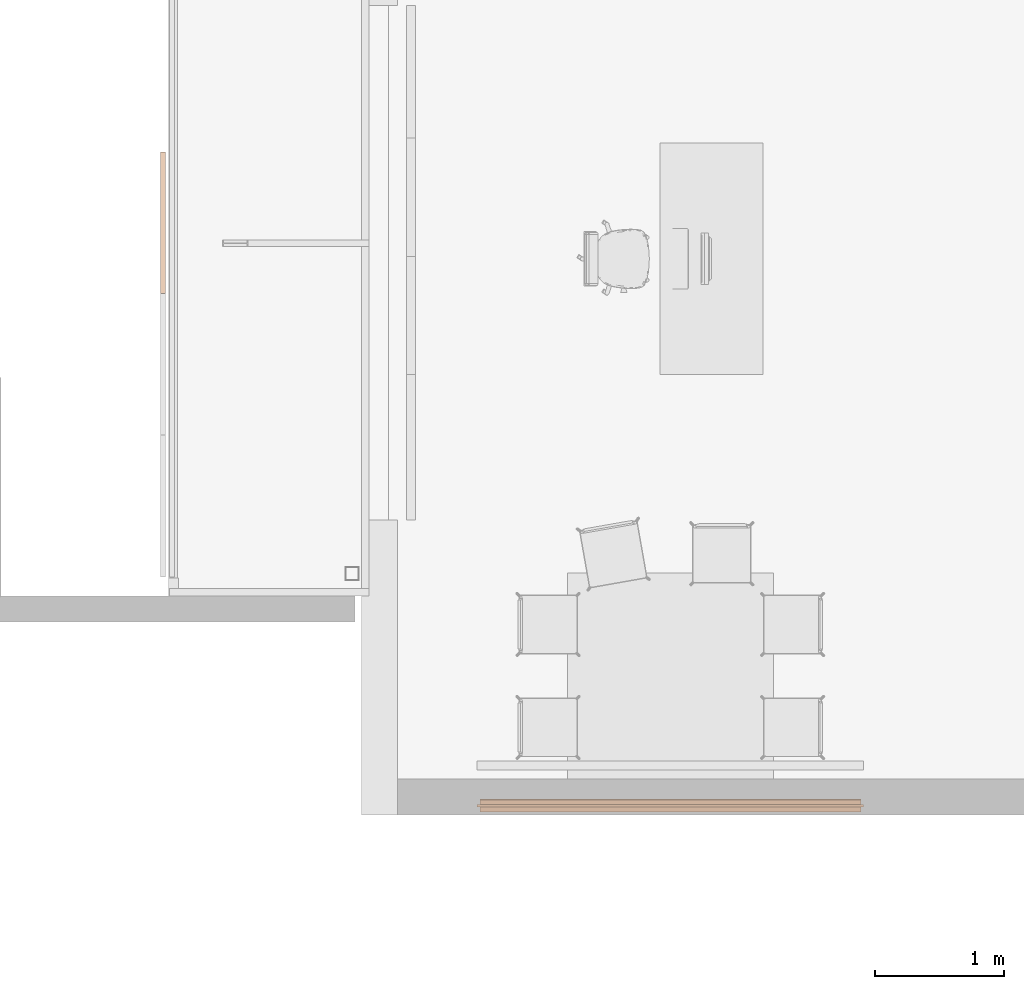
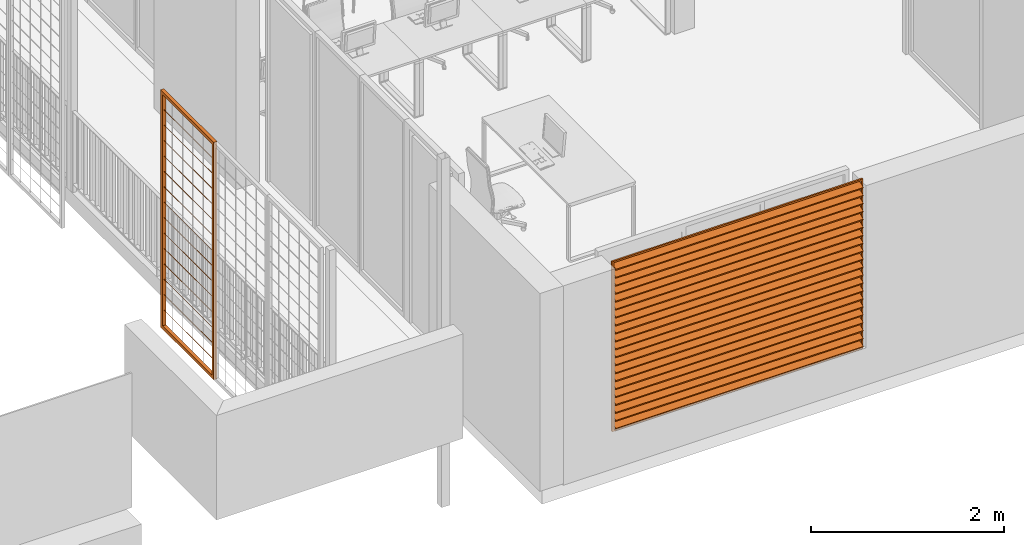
# One storey, part 38 of 51: 2 proxies.
"""IFC2X3 building model written with IfcOpenShell, lengths in metres."""

from ifc_helpers import new_model, entity, si_unit, converted_unit, derived_unit, direction, frame, frame_2d, origin, origin_2d_with_axis, place, context, subcontext, project, spatial, polyline, rectangle, outline, extrude, source, transform, mapped, material, type_object, type_shapes, element, save


model = new_model("IFC2X3")

# Units and contexts
model_context = context("Model", 3, precision=1e-05, world=origin(), true_north=direction((6.123031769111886e-17, 1.0)))
body_context = subcontext(model_context, "Body", "Model", "MODEL_VIEW")
ifc_project = project(units=[si_unit("LENGTHUNIT", "METRE"), si_unit("AREAUNIT", "SQUARE_METRE"), si_unit("VOLUMEUNIT", "CUBIC_METRE"), converted_unit("PLANEANGLEUNIT", "DEGREE", entity("IfcRatioMeasure", 0.017453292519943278), si_unit("PLANEANGLEUNIT", "RADIAN"), dimensions=[0, 0, 0, 0, 0, 0, 0]), si_unit("MASSUNIT", "GRAM", prefix="KILO"), derived_unit("MASSDENSITYUNIT", [(si_unit("MASSUNIT", "GRAM", prefix="KILO"), 1), (si_unit("LENGTHUNIT", "METRE"), -3)]), derived_unit("MOMENTOFINERTIAUNIT", [(si_unit("LENGTHUNIT", "METRE"), 4)]), si_unit("TIMEUNIT", "SECOND"), si_unit("FREQUENCYUNIT", "HERTZ"), si_unit("THERMODYNAMICTEMPERATUREUNIT", "DEGREE_CELSIUS"), derived_unit("THERMALTRANSMITTANCEUNIT", [(si_unit("MASSUNIT", "GRAM", prefix="KILO"), 1), (si_unit("THERMODYNAMICTEMPERATUREUNIT", "KELVIN"), -1), (si_unit("TIMEUNIT", "SECOND"), -3)]), derived_unit("THERMALCONDUCTANCEUNIT", [(si_unit("MASSUNIT", "GRAM", prefix="KILO"), 1), (si_unit("LENGTHUNIT", "METRE"), 1), (si_unit("THERMODYNAMICTEMPERATUREUNIT", "KELVIN"), -1), (si_unit("TIMEUNIT", "SECOND"), -3)]), derived_unit("VOLUMETRICFLOWRATEUNIT", [(si_unit("LENGTHUNIT", "METRE"), 3), (si_unit("TIMEUNIT", "SECOND"), -1)]), derived_unit("MASSFLOWRATEUNIT", [(si_unit("MASSUNIT", "GRAM", prefix="KILO"), 1), (si_unit("TIMEUNIT", "SECOND"), -1)]), derived_unit("ROTATIONALFREQUENCYUNIT", [(si_unit("TIMEUNIT", "SECOND"), -1)]), si_unit("ELECTRICCURRENTUNIT", "AMPERE"), si_unit("ELECTRICVOLTAGEUNIT", "VOLT"), si_unit("POWERUNIT", "WATT"), si_unit("FORCEUNIT", "NEWTON", prefix="KILO"), si_unit("ILLUMINANCEUNIT", "LUX"), si_unit("LUMINOUSFLUXUNIT", "LUMEN"), si_unit("LUMINOUSINTENSITYUNIT", "CANDELA"), derived_unit("USERDEFINED", [(si_unit("MASSUNIT", "GRAM", prefix="KILO"), -1), (si_unit("LENGTHUNIT", "METRE"), -2), (si_unit("TIMEUNIT", "SECOND"), 3), (si_unit("LUMINOUSFLUXUNIT", "LUMEN"), 1)]), derived_unit("USERDEFINED", [(si_unit("MASSUNIT", "GRAM", prefix="KILO"), 1), (si_unit("LENGTHUNIT", "METRE"), 3), (si_unit("TIMEUNIT", "SECOND"), -3), (si_unit("ELECTRICCURRENTUNIT", "AMPERE"), -2)]), derived_unit("USERDEFINED", [(si_unit("LENGTHUNIT", "METRE"), 2), (si_unit("TIMEUNIT", "SECOND"), -2)]), derived_unit("SOUNDPOWERUNIT", [(si_unit("MASSUNIT", "GRAM", prefix="KILO"), 1), (si_unit("LENGTHUNIT", "METRE"), 2), (si_unit("TIMEUNIT", "SECOND"), -3)]), derived_unit("SOUNDPRESSUREUNIT", [(si_unit("MASSUNIT", "GRAM", prefix="KILO"), 1), (si_unit("LENGTHUNIT", "METRE"), -1), (si_unit("TIMEUNIT", "SECOND"), -2)]), derived_unit("LINEARVELOCITYUNIT", [(si_unit("LENGTHUNIT", "METRE"), 1), (si_unit("TIMEUNIT", "SECOND"), -1)]), si_unit("PRESSUREUNIT", "PASCAL"), derived_unit("USERDEFINED", [(si_unit("LENGTHUNIT", "METRE"), -2), (si_unit("MASSUNIT", "GRAM", prefix="KILO"), 1), (si_unit("TIMEUNIT", "SECOND"), -2)]), derived_unit("LINEARFORCEUNIT", [(si_unit("MASSUNIT", "GRAM", prefix="KILO"), 1), (si_unit("LENGTHUNIT", "METRE"), 1), (si_unit("TIMEUNIT", "SECOND"), -2), (si_unit("LENGTHUNIT", "METRE"), -1)]), derived_unit("PLANARFORCEUNIT", [(si_unit("MASSUNIT", "GRAM", prefix="KILO"), 1), (si_unit("LENGTHUNIT", "METRE"), 1), (si_unit("TIMEUNIT", "SECOND"), -2), (si_unit("LENGTHUNIT", "METRE"), -2)]), derived_unit("SPECIFICHEATCAPACITYUNIT", [(si_unit("LENGTHUNIT", "METRE"), 2), (si_unit("TIMEUNIT", "SECOND"), -2), (si_unit("THERMODYNAMICTEMPERATUREUNIT", "KELVIN"), -1)]), derived_unit("VAPORPERMEABILITYUNIT", [(si_unit("TIMEUNIT", "SECOND"), 1), (si_unit("LENGTHUNIT", "METRE"), -1)]), derived_unit("DYNAMICVISCOSITYUNIT", [(si_unit("MASSUNIT", "GRAM", prefix="KILO"), 1), (si_unit("LENGTHUNIT", "METRE"), -1), (si_unit("TIMEUNIT", "SECOND"), -1)]), derived_unit("THERMALEXPANSIONCOEFFICIENTUNIT", [(si_unit("THERMODYNAMICTEMPERATUREUNIT", "KELVIN"), -1)])], contexts=[model_context])

# Site, building, storey
site_placement = place(None, origin())
site = spatial("IfcSite", under=ifc_project, at=site_placement, Name="Default", CompositionType="ELEMENT")
building_placement = place(site_placement, origin())
building = spatial("IfcBuilding", under=site, at=building_placement, CompositionType="ELEMENT")
storey_placement = place(building_placement, frame((0.0, 0.0, 3.06)))
storey = spatial("IfcBuildingStorey", under=building, at=storey_placement, Name="ÉTAGE", CompositionType="ELEMENT", Elevation=3.06)

# Proxies
ifc_material_1 = material(Name="Peinture - Anthracite")
building_element_proxy_type_1 = type_object("IfcBuildingElementProxyType", Name="Symb-0003", PredefinedType="NOTDEFINED", material=ifc_material_1)
shared_shape_1 = source(origin(), body_context, "Body", "SweptSolid", [
    extrude(rectangle(XDim=0.020000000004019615, YDim=0.10047619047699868, at=frame_2d((-8.546531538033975e-13, -2.3497358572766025e-12), x_axis=(0.0, 1.0))), frame((142.32075228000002, 7.659209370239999, 6.749761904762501), z_axis=(1.0, 0.0, 0.0), x_axis=(0.0, 0.9396926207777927, 0.3420201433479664)), (0.0, 0.0, 1.0), 2.959999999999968),
    extrude(rectangle(XDim=0.020000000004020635, YDim=0.10047619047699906, at=frame_2d((5.065392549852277e-16, -1.8648277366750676e-16), x_axis=(0.0, 1.0))), frame((142.32075228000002, 7.659209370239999, 6.649285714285), z_axis=(1.0, 0.0, 0.0), x_axis=(0.0, 0.9396926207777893, 0.3420201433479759)), (0.0, 0.0, 1.0), 2.959999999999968),
    extrude(rectangle(XDim=0.019999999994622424, YDim=0.10047619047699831, at=frame_2d((5.065392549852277e-16, -1.8648277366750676e-16), x_axis=(0.0, 1.0))), frame((142.32075228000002, 7.659209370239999, 6.54880952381), z_axis=(1.0, 0.0, 0.0), x_axis=(0.0, 0.9396926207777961, 0.3420201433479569)), (0.0, 0.0, 1.0), 2.959999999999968),
    extrude(rectangle(XDim=0.020000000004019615, YDim=0.10047619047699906, at=frame_2d((-8.546566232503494e-13, -2.3497375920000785e-12), x_axis=(0.0, 1.0))), frame((142.32075228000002, 7.659209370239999, 6.4483333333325), z_axis=(1.0, 0.0, 0.0), x_axis=(0.0, 0.9396926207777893, 0.3420201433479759)), (0.0, 0.0, 1.0), 2.959999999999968),
    extrude(rectangle(XDim=0.01999999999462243, YDim=0.100476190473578, at=frame_2d((8.556766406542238e-13, 2.3493654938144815e-12), x_axis=(0.0, 1.0))), frame((142.32075228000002, 7.659209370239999, 6.3478571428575), z_axis=(1.0, 0.0, 0.0), x_axis=(0.0, 0.9396926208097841, 0.34202014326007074)), (0.0, 0.0, 1.0), 2.959999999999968),
    extrude(rectangle(XDim=0.020000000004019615, YDim=0.1004761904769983, at=frame_2d((-8.546566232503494e-13, -2.3497375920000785e-12), x_axis=(0.0, 1.0))), frame((142.32075228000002, 7.659209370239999, 6.247380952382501), z_axis=(1.0, 0.0, 0.0), x_axis=(0.0, 0.9396926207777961, 0.3420201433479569)), (0.0, 0.0, 1.0), 2.959999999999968),
    extrude(rectangle(XDim=0.02000000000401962, YDim=0.10047619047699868, at=frame_2d((5.134781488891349e-16, -1.8474805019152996e-16), x_axis=(0.0, 1.0))), frame((142.32075228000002, 7.659209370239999, 6.146904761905), z_axis=(1.0, 0.0, 0.0), x_axis=(0.0, 0.9396926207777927, 0.3420201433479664)), (0.0, 0.0, 1.0), 2.959999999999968),
    extrude(rectangle(XDim=0.01999999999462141, YDim=0.10047619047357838, at=frame_2d((8.556766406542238e-13, 2.3493663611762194e-12), x_axis=(0.0, 1.0))), frame((142.32075228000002, 7.659209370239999, 6.046428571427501), z_axis=(1.0, 0.0, 0.0), x_axis=(0.0, 0.9396926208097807, 0.34202014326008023)), (0.0, 0.0, 1.0), 2.959999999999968),
    extrude(rectangle(XDim=0.020000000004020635, YDim=0.1004761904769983, at=frame_2d((-8.542923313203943e-13, -2.34871930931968e-12), x_axis=(0.0, 1.0))), frame((142.32075228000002, 7.659209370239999, 5.9459523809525), z_axis=(1.0, 0.0, 0.0), x_axis=(0.0, 0.9396926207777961, 0.3420201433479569)), (0.0, 0.0, 1.0), 2.959999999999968),
    extrude(rectangle(XDim=0.020000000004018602, YDim=0.10047619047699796, at=frame_2d((6.869504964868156e-16, 3.226585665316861e-16), x_axis=(0.0, 1.0))), frame((142.32075228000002, 7.659209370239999, 5.845476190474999), z_axis=(1.0, 0.0, 0.0), x_axis=(0.0, 0.9396926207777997, 0.3420201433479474)), (0.0, 0.0, 1.0), 2.959999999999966),
    extrude(rectangle(XDim=0.019999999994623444, YDim=0.10047619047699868, at=frame_2d((3.2612801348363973e-16, -6.930220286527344e-16), x_axis=(0.0, 1.0))), frame((142.32075228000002, 7.659209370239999, 5.745000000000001), z_axis=(1.0, 0.0, 0.0), x_axis=(0.0, 0.9396926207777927, 0.3420201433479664)), (0.0, 0.0, 1.0), 2.959999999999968),
    extrude(rectangle(XDim=0.02000000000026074, YDim=0.10047619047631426, at=frame_2d((3.4253849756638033e-13, 9.395314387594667e-13), x_axis=(0.0, 1.0))), frame((142.32075228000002, 7.659209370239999, 5.644523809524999), z_axis=(1.0, 0.0, 0.0), x_axis=(0.0, 0.9396926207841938, 0.34202014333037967)), (0.0, 0.0, 1.0), 2.959999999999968),
    extrude(rectangle(XDim=0.02000000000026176, YDim=0.10047619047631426, at=frame_2d((-8.504308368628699e-14, -2.3524151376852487e-13), x_axis=(0.0, 1.0))), frame((142.32075228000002, 7.659209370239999, 5.54404761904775), z_axis=(1.0, 0.0, 0.0), x_axis=(0.0, 0.9396926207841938, 0.34202014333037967)), (0.0, 0.0, 1.0), 2.959999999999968),
    extrude(rectangle(XDim=0.020000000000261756, YDim=0.10047619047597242, at=frame_2d((1.457167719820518e-16, -1.2021633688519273e-15), x_axis=(0.0, 1.0))), frame((142.32075228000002, 7.659209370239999, 5.443571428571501), z_axis=(1.0, 0.0, 0.0), x_axis=(0.0, 0.9396926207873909, 0.3420201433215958)), (0.0, 0.0, 1.0), 2.959999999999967),
    extrude(rectangle(XDim=0.019999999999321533, YDim=0.1004761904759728, at=frame_2d((8.60596316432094e-14, 2.348711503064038e-13), x_axis=(0.0, 1.0))), frame((142.32075228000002, 7.659209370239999, 5.343095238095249), z_axis=(1.0, 0.0, 0.0), x_axis=(0.0, 0.9396926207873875, 0.34202014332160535)), (0.0, 0.0, 1.0), 2.959999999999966),
    extrude(rectangle(XDim=0.020000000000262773, YDim=0.10047619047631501, at=frame_2d((3.226585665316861e-16, -6.92154666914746e-16), x_axis=(0.0, 1.0))), frame((142.32075228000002, 7.659209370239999, 5.242619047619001), z_axis=(1.0, 0.0, 0.0), x_axis=(0.0, 0.9396926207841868, 0.3420201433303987)), (0.0, 0.0, 1.0), 2.959999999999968),
    extrude(rectangle(XDim=0.02000000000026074, YDim=0.10047619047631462, at=frame_2d((-8.504308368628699e-14, -2.3524151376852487e-13), x_axis=(0.0, 1.0))), frame((142.32075228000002, 7.659209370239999, 5.142142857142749), z_axis=(1.0, 0.0, 0.0), x_axis=(0.0, 0.9396926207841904, 0.34202014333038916)), (0.0, 0.0, 1.0), 2.959999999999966),
    extrude(rectangle(XDim=0.02000000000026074, YDim=0.10047619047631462, at=frame_2d((-8.504308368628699e-14, -2.3524151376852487e-13), x_axis=(0.0, 1.0))), frame((142.32075228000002, 7.659209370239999, 5.04166666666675), z_axis=(1.0, 0.0, 0.0), x_axis=(0.0, 0.9396926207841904, 0.34202014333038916)), (0.0, 0.0, 1.0), 2.959999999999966),
    extrude(rectangle(XDim=0.02000000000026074, YDim=0.10047619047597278, at=frame_2d((5.065392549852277e-16, -1.8561541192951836e-16), x_axis=(0.0, 1.0))), frame((142.32075228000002, 7.659209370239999, 4.9411904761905), z_axis=(1.0, 0.0, 0.0), x_axis=(0.0, 0.9396926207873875, 0.34202014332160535)), (0.0, 0.0, 1.0), 2.959999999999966),
    extrude(rectangle(XDim=0.019999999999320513, YDim=0.10047619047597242, at=frame_2d((8.606657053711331e-14, 2.348737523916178e-13), x_axis=(0.0, 1.0))), frame((142.32075228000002, 7.659209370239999, 4.84071428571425), z_axis=(1.0, 0.0, 0.0), x_axis=(0.0, 0.9396926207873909, 0.3420201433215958)), (0.0, 0.0, 1.0), 2.959999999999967),
    extrude(rectangle(XDim=0.019999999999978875, YDim=0.10047619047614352, at=frame_2d((5.065392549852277e-16, -1.8474805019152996e-16), x_axis=(0.0, 1.0))), frame((142.32075228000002, 7.659209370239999, 4.7402380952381), z_axis=(1.0, 0.0, 0.0), x_axis=(0.0, 0.9396926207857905, 0.3420201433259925)), (0.0, 0.0, 1.0), 2.959999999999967),
    extrude(outline(polyline([(-1.0750000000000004, -1.5000000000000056), (1.0750000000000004, -1.5000000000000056), (1.0750000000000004, 1.4999999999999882), (-1.0750000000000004, 1.4999999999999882), (-1.0750000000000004, -1.5000000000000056)]), holes=[polyline([(-1.0550000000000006, 1.4799999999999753), (1.055, 1.4799999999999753), (1.055, -1.4799999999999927), (-1.0550000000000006, -1.4799999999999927), (-1.0550000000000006, 1.4799999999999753)])]), frame((143.80075227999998, 7.6492093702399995, 5.745), z_axis=(0.0, 1.0, 0.0), x_axis=(0.0, 0.0, -1.0)), (0.0, 0.0, 1.0), 0.019999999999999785),
])
type_shapes(building_element_proxy_type_1, [shared_shape_1])
proxy_1_placement = place(storey_placement, frame((0.0, 0.0, -3.06)))
element("IfcBuildingElementProxy", 1, at=proxy_1_placement, inside=storey, type_object=building_element_proxy_type_1, material=ifc_material_1, Name="Symb-0003 285634:Symb-0003 285634", ObjectType="Symb-0003 285634:Symb-0003 285634", context=body_context, shape_type="MappedRepresentation", body=[
    mapped(shared_shape_1, transform((0.0, 0.0, 0.0), scale=1.0)),
])
ifc_material_2 = material(Name="Peinture - Gris foncé")
building_element_proxy_type_2 = type_object("IfcBuildingElementProxyType", Name="Symb-0003", PredefinedType="NOTDEFINED", material=ifc_material_2)
shared_shape_2 = source(origin(), body_context, "Body", "SweptSolid", [
    extrude(outline(polyline([(-0.0011785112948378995, -0.002357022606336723), (0.0, -0.0023570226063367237), (0.001767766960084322, -0.0017677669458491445), (0.002357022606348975, 0.0), (0.0023570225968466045, 0.0011785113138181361), (0.0011785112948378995, 0.002357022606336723), (0.0, 0.002357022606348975), (-0.001767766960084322, 0.0017677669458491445), (-0.0023570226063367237, 0.0), (-0.0023570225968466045, -0.0011785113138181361), (-0.0011785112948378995, -0.002357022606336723)])), frame((139.86075228, 11.677209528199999, 6.7275), z_axis=(0.0, 1.0, 0.0), x_axis=(-0.7071067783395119, 0.0, -0.7071067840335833)), (0.0, 0.0, 1.0), 1.0200000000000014),
    extrude(outline(polyline([(-0.0011785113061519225, -0.0023570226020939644), (0.0, -0.002357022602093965), (0.0017677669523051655, -0.001767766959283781), (0.0023570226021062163, 0.0), (0.002357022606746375, 0.0011785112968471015), (0.0011785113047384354, 0.0023570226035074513), (0.0, 0.0023570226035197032), (-0.0017677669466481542, 0.0017677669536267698), (-0.002357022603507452, 0.0), (-0.0023570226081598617, -0.0011785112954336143), (-0.0011785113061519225, -0.0023570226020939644)])), frame((139.86075228, 11.677209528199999, 6.532833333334), z_axis=(0.0, 1.0, 0.0), x_axis=(-0.7071067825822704, 0.0, -0.7071067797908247)), (0.0, 0.0, 1.0), 1.0200000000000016),
    extrude(outline(polyline([(-0.001178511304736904, -0.002357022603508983), (0.0, -0.002357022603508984), (0.0017677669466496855, -0.001767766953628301), (0.002357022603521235, 0.0), (0.0023570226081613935, 0.0011785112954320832), (0.0011785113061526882, 0.002357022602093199), (0.0, 0.002357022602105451), (-0.0017677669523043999, 0.0017677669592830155), (-0.0023570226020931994, 0.0), (-0.0023570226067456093, -0.0011785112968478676), (-0.001178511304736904, -0.002357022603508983)])), frame((139.86075228, 11.677209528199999, 6.338166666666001), z_axis=(0.0, 1.0, 0.0), x_axis=(-0.7071067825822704, 0.0, -0.7071067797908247)), (0.0, 0.0, 1.0), 1.0200000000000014),
    extrude(outline(polyline([(-0.0011785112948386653, -0.0023570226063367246), (0.0, -0.0023570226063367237), (0.0017677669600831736, -0.001767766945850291), (0.002357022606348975, 0.0), (0.0023570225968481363, 0.001178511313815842), (0.0011785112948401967, 0.0023570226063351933), (0.0, 0.002357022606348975), (-0.001767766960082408, 0.0017677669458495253), (-0.0023570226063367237, 0.0), (-0.002357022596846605, -0.0011785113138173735), (-0.0011785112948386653, -0.0023570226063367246)])), frame((139.86075228, 11.677209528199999, 6.1435), z_axis=(0.0, 1.0, 0.0), x_axis=(-0.7071067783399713, 0.0, -0.7071067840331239)), (0.0, 0.0, 1.0), 1.0200000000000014),
    extrude(outline(polyline([(-0.0011785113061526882, -0.002357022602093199), (0.0, -0.0023570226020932), (0.0017677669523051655, -0.001767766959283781), (0.002357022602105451, 0.0), (0.0023570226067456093, 0.0011785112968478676), (0.0011785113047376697, 0.002357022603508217), (0.0, 0.0023570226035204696), (-0.0017677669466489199, 0.0017677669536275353), (-0.002357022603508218, 0.0), (-0.0023570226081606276, -0.0011785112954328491), (-0.0011785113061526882, -0.002357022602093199)])), frame((139.86075228, 11.677209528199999, 5.948833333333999), z_axis=(0.0, 1.0, 0.0), x_axis=(-0.7071067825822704, 0.0, -0.7071067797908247)), (0.0, 0.0, 1.0), 1.0200000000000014),
    extrude(outline(polyline([(-0.0011785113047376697, -0.002357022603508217), (0.0, -0.002357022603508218), (0.0017677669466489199, -0.0017677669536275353), (0.0023570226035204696, 0.0), (0.0023570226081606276, 0.0011785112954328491), (0.0011785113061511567, 0.0023570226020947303), (0.0, 0.0023570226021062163), (-0.0017677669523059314, 0.0017677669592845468), (-0.0023570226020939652, 0.0), (-0.0023570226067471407, -0.0011785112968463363), (-0.0011785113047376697, -0.002357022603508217)])), frame((139.86075228, 11.677209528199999, 5.754166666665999), z_axis=(0.0, 1.0, 0.0), x_axis=(-0.7071067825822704, 0.0, -0.7071067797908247)), (0.0, 0.0, 1.0), 1.0200000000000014),
    extrude(outline(polyline([(-0.001178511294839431, -0.0023570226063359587), (0.0, -0.002357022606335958), (0.001767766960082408, -0.0017677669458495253), (0.0023570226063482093, 0.0), (0.0023570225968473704, 0.0011785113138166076), (0.001178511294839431, 0.0023570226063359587), (0.0, 0.0023570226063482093), (-0.001767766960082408, 0.0017677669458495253), (-0.002357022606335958, 0.0), (-0.0023570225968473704, -0.0011785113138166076), (-0.001178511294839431, -0.0023570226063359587)])), frame((139.86075228, 11.677209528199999, 5.5595), z_axis=(0.0, 1.0, 0.0), x_axis=(-0.7071067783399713, 0.0, -0.7071067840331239)), (0.0, 0.0, 1.0), 1.0200000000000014),
    extrude(outline(polyline([(-0.0011785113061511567, -0.0023570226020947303), (0.0, -0.002357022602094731), (0.001767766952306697, -0.0017677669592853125), (0.002357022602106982, 0.0), (0.0023570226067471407, 0.0011785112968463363), (0.001178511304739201, 0.0023570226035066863), (0.0, 0.0023570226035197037), (-0.0017677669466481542, 0.0017677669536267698), (-0.002357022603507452, 0.0), (-0.0023570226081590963, -0.0011785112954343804), (-0.0011785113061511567, -0.0023570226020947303)])), frame((139.86075228, 11.677209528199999, 5.364833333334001), z_axis=(0.0, 1.0, 0.0), x_axis=(-0.7071067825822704, 0.0, -0.7071067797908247)), (0.0, 0.0, 1.0), 1.0200000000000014),
    extrude(outline(polyline([(-0.001178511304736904, -0.002357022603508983), (0.0, -0.002357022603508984), (0.0017677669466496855, -0.001767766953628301), (0.002357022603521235, 0.0), (0.0023570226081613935, 0.0011785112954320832), (0.0011785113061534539, 0.002357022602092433), (0.0, 0.002357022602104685), (-0.0017677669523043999, 0.0017677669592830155), (-0.002357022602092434, 0.0), (-0.0023570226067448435, -0.0011785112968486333), (-0.001178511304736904, -0.002357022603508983)])), frame((139.86075228, 11.677209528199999, 5.1701666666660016), z_axis=(0.0, 1.0, 0.0), x_axis=(-0.7071067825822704, 0.0, -0.7071067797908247)), (0.0, 0.0, 1.0), 1.0200000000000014),
    extrude(outline(polyline([(-0.001178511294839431, -0.0023570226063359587), (0.0, -0.002357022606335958), (0.001767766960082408, -0.0017677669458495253), (0.0023570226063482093, 0.0), (0.0023570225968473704, 0.0011785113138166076), (0.0011785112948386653, 0.0023570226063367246), (0.0, 0.0023570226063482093), (-0.0017677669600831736, 0.001767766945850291), (-0.002357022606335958, 0.0), (-0.0023570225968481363, -0.001178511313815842), (-0.001178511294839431, -0.0023570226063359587)])), frame((139.86075228, 11.677209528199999, 4.975499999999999), z_axis=(0.0, 1.0, 0.0), x_axis=(-0.7071067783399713, 0.0, -0.7071067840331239)), (0.0, 0.0, 1.0), 1.0200000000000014),
    extrude(outline(polyline([(-0.0011785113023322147, -0.0023570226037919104), (0.0, -0.002357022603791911), (0.0017677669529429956, -0.0017677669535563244), (0.002357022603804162, 0.0), (0.002357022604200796, 0.0011785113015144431), (0.0011785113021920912, 0.002357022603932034), (0.0, 0.0023570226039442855), (-0.001767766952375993, 0.0017677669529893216), (-0.0023570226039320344, 0.0), (-0.0023570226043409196, -0.0011785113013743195), (-0.0011785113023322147, -0.0023570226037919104)])), frame((139.86075228, 11.677209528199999, 4.780833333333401), z_axis=(0.0, 1.0, 0.0), x_axis=(-0.7071067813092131, 0.0, -0.7071067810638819)), (0.0, 0.0, 1.0), 1.020000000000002),
    extrude(outline(polyline([(-0.0011785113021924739, -0.0023570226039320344), (0.0, -0.0023570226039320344), (0.0017677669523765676, -0.0017677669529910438), (0.002357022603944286, 0.0), (0.0023570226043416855, 0.0011785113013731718), (0.0011785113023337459, 0.002357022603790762), (0.0, 0.0023570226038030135), (-0.0017677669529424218, 0.0017677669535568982), (-0.0023570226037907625, 0.0), (-0.002357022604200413, -0.001178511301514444), (-0.0011785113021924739, -0.0023570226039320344)])), frame((139.86075228, 11.677209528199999, 4.5861666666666), z_axis=(0.0, 1.0, 0.0), x_axis=(-0.7071067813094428, 0.0, -0.7071067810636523)), (0.0, 0.0, 1.0), 1.020000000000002),
    extrude(outline(polyline([(-0.0011785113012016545, -0.0023570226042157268), (0.0, -0.002357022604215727), (0.001767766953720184, -0.0017677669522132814), (0.0023570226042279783, 0.0), (0.0023570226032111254, 0.0011785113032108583), (0.001178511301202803, 0.0023570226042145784), (0.0, 0.002357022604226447), (-0.0017677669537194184, 0.0017677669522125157), (-0.002357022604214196, 0.0), (-0.0023570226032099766, -0.0011785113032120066), (-0.0011785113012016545, -0.0023570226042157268)])), frame((139.86075228, 11.677209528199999, 4.391500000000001), z_axis=(0.0, 1.0, 0.0), x_axis=(-0.707106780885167, 0.0, -0.707106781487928)), (0.0, 0.0, 1.0), 1.020000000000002),
    extrude(outline(polyline([(-0.0011785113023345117, -0.0023570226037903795), (0.0, -0.0023570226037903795), (0.0017677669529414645, -0.0017677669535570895), (0.0023570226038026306, 0.0), (0.002357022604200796, 0.0011785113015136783), (0.001178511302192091, 0.0023570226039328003), (0.0, 0.002357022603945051), (-0.00176776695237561, 0.001767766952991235), (-0.0023570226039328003, 0.0), (-0.002357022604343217, -0.0011785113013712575), (-0.0011785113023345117, -0.0023570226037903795)])), frame((139.86075228, 11.677209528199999, 4.196833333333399), z_axis=(0.0, 1.0, 0.0), x_axis=(-0.7071067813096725, 0.0, -0.7071067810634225)), (0.0, 0.0, 1.0), 1.020000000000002),
    extrude(outline(polyline([(-0.001178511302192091, -0.002357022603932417), (0.0, -0.0023570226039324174), (0.0017677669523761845, -0.0017677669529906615), (0.0023570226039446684, 0.0), (0.0023570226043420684, 0.0011785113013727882), (0.0011785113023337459, 0.002357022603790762), (0.0, 0.0023570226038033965), (-0.001767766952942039, 0.001767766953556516), (-0.0023570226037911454, 0.0), (-0.002357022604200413, -0.0011785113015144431), (-0.001178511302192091, -0.002357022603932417)])), frame((139.86075228, 11.677209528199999, 4.0021666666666), z_axis=(0.0, 1.0, 0.0), x_axis=(-0.7071067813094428, 0.0, -0.7071067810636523)), (0.0, 0.0, 1.0), 1.020000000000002),
    extrude(rectangle(XDim=1.099999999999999, YDim=0.039999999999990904, at=frame_2d((1.1102230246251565e-15, 0.0), x_axis=(1.0, 0.0))), frame((139.86075227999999, 12.187209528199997, 6.73), z_axis=(0.0, 0.0, 1.0), x_axis=(0.0, 1.0, 0.0)), (0.0, 0.0, 1.0), 0.03999999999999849),
    extrude(rectangle(XDim=1.099999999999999, YDim=0.039999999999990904, at=frame_2d((1.1102230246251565e-15, 0.0), x_axis=(1.0, 0.0))), frame((139.86075227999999, 12.187209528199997, 3.7699999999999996), z_axis=(0.0, 0.0, 1.0), x_axis=(0.0, 1.0, 0.0)), (0.0, 0.0, 1.0), 0.04000000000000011),
    extrude(rectangle(XDim=0.03999999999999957, YDim=0.039999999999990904, at=origin_2d_with_axis()), frame((139.86075227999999, 11.6572095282, 3.8099999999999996), z_axis=(0.0, 0.0, 1.0), x_axis=(0.0, 1.0, 0.0)), (0.0, 0.0, 1.0), 2.9200000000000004),
    extrude(rectangle(XDim=0.039999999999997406, YDim=0.039999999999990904, at=frame_2d((1.0824674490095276e-15, 0.0), x_axis=(1.0, 0.0))), frame((139.86075227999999, 12.717209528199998, 3.8099999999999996), z_axis=(0.0, 0.0, 1.0), x_axis=(0.0, 1.0, 0.0)), (0.0, 0.0, 1.0), 2.9200000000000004),
])
type_shapes(building_element_proxy_type_2, [shared_shape_2])
proxy_2_placement = place(storey_placement, frame((0.0, 0.0, -3.06)))
element("IfcBuildingElementProxy", 2, at=proxy_2_placement, inside=storey, type_object=building_element_proxy_type_2, material=ifc_material_2, Name="Symb-0003 285663:Symb-0003 285663", ObjectType="Symb-0003 285663:Symb-0003 285663", context=body_context, shape_type="MappedRepresentation", body=[
    mapped(shared_shape_2, transform((0.0, 0.0, 0.0), scale=1.0)),
])

save(model, "model.ifc")
